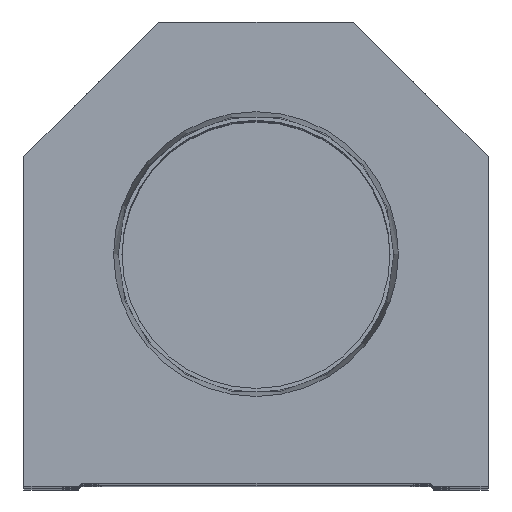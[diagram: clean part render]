
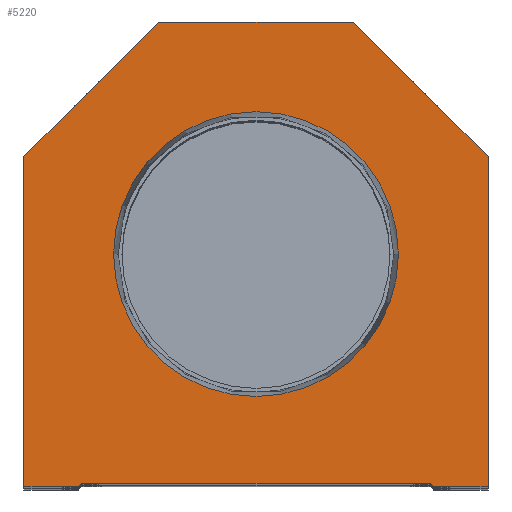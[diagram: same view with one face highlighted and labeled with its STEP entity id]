
A CAD part, top view. The second image highlights one B-rep face of the part: STEP entity #5220.
In plain terms, the highlighted planar face has unit normal (0, 0, 1).
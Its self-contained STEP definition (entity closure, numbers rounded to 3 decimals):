
#73 = VERTEX_POINT ( 'NONE', #721 ) ;
#128 = CARTESIAN_POINT ( 'NONE',  ( -38.1, 54.1, 0. ) ) ;
#228 = CARTESIAN_POINT ( 'NONE',  ( -38.1, 54.1, 0. ) ) ;
#285 = EDGE_LOOP ( 'NONE', ( #6397, #1532, #22794, #3366, #21651, #17942, #521, #16486, #10369, #4028 ) ) ;
#521 = ORIENTED_EDGE ( 'NONE', *, *, #22361, .T. ) ;
#693 = CARTESIAN_POINT ( 'NONE',  ( 38.1, 54.1, 0. ) ) ;
#721 = CARTESIAN_POINT ( 'NONE',  ( 23.374, 38.1, 0. ) ) ;
#1532 = ORIENTED_EDGE ( 'NONE', *, *, #13314, .T. ) ;
#1607 = DIRECTION ( 'NONE',  ( 1., 0., 0. ) ) ;
#2179 = EDGE_LOOP ( 'NONE', ( #26984, #6029 ) ) ;
#2628 = DIRECTION ( 'NONE',  ( -1., 0., 0. ) ) ;
#3242 = CARTESIAN_POINT ( 'NONE',  ( -29.1, 0., 0. ) ) ;
#3366 = ORIENTED_EDGE ( 'NONE', *, *, #8626, .T. ) ;
#3370 = DIRECTION ( 'NONE',  ( 1., 0., 0. ) ) ;
#3670 = VECTOR ( 'NONE', #11921, 1000. ) ;
#3711 = FACE_BOUND ( 'NONE', #2179, .T. ) ;
#3716 = CARTESIAN_POINT ( 'NONE',  ( -28.6, 0.5, 0. ) ) ;
#3792 = CARTESIAN_POINT ( 'NONE',  ( -28.6, 0.5, 0. ) ) ;
#4010 = VECTOR ( 'NONE', #22852, 1000. ) ;
#4028 = ORIENTED_EDGE ( 'NONE', *, *, #17716, .T. ) ;
#4369 = LINE ( 'NONE', #128, #21928 ) ;
#4616 = LINE ( 'NONE', #15202, #26229 ) ;
#5220 = ADVANCED_FACE ( 'NONE', ( #3711, #21496 ), #8636, .T. ) ;
#5226 = DIRECTION ( 'NONE',  ( 0.707, -0.707, 0. ) ) ;
#5844 = CARTESIAN_POINT ( 'NONE',  ( -16., 76.2, 0. ) ) ;
#6029 = ORIENTED_EDGE ( 'NONE', *, *, #9067, .F. ) ;
#6397 = ORIENTED_EDGE ( 'NONE', *, *, #9710, .T. ) ;
#6539 = VECTOR ( 'NONE', #7447, 1000. ) ;
#7189 = VERTEX_POINT ( 'NONE', #10645 ) ;
#7228 = DIRECTION ( 'NONE',  ( 0.707, 0.707, 0. ) ) ;
#7368 = LINE ( 'NONE', #20528, #20464 ) ;
#7447 = DIRECTION ( 'NONE',  ( -0.707, 0.707, 0. ) ) ;
#7744 = LINE ( 'NONE', #14283, #4010 ) ;
#8295 = CARTESIAN_POINT ( 'NONE',  ( -28.6, 0., 0. ) ) ;
#8626 = EDGE_CURVE ( 'NONE', #18883, #24762, #13717, .T. ) ;
#8636 = PLANE ( 'NONE',  #18221 ) ;
#8643 = LINE ( 'NONE', #17404, #27538 ) ;
#9032 = VERTEX_POINT ( 'NONE', #228 ) ;
#9067 = EDGE_CURVE ( 'NONE', #18696, #73, #19264, .T. ) ;
#9710 = EDGE_CURVE ( 'NONE', #7189, #19041, #25360, .T. ) ;
#9905 = VECTOR ( 'NONE', #3370, 1000. ) ;
#9908 = VERTEX_POINT ( 'NONE', #12610 ) ;
#10369 = ORIENTED_EDGE ( 'NONE', *, *, #24826, .T. ) ;
#10502 = DIRECTION ( 'NONE',  ( 0., 1., 0. ) ) ;
#10645 = CARTESIAN_POINT ( 'NONE',  ( -38.1, 0., 0. ) ) ;
#10687 = VECTOR ( 'NONE', #5226, 1000. ) ;
#10776 = DIRECTION ( 'NONE',  ( 0., 0., 1. ) ) ;
#11558 = VERTEX_POINT ( 'NONE', #3716 ) ;
#11670 = EDGE_CURVE ( 'NONE', #19135, #13259, #8643, .T. ) ;
#11921 = DIRECTION ( 'NONE',  ( 0., -1., 0. ) ) ;
#12361 = EDGE_CURVE ( 'NONE', #9908, #20924, #4616, .T. ) ;
#12610 = CARTESIAN_POINT ( 'NONE',  ( 16., 76.2, 0. ) ) ;
#13259 = VERTEX_POINT ( 'NONE', #22616 ) ;
#13314 = EDGE_CURVE ( 'NONE', #19041, #11558, #7368, .T. ) ;
#13381 = DIRECTION ( 'NONE',  ( 0., 0., 1. ) ) ;
#13717 = LINE ( 'NONE', #22297, #10687 ) ;
#13802 = DIRECTION ( 'NONE',  ( 1., 0., 0. ) ) ;
#14177 = CARTESIAN_POINT ( 'NONE',  ( -38.1, 0., 0. ) ) ;
#14283 = CARTESIAN_POINT ( 'NONE',  ( 28.6, 0., 0. ) ) ;
#14888 = EDGE_CURVE ( 'NONE', #11558, #18883, #16929, .T. ) ;
#15202 = CARTESIAN_POINT ( 'NONE',  ( 16., 76.2, 0. ) ) ;
#15366 = DIRECTION ( 'NONE',  ( 1., 0., 0. ) ) ;
#15527 = EDGE_CURVE ( 'NONE', #24762, #19135, #7744, .T. ) ;
#16486 = ORIENTED_EDGE ( 'NONE', *, *, #12361, .T. ) ;
#16929 = LINE ( 'NONE', #3792, #27124 ) ;
#17068 = CARTESIAN_POINT ( 'NONE',  ( 0., 38.1, 0. ) ) ;
#17180 = EDGE_CURVE ( 'NONE', #73, #18696, #17606, .T. ) ;
#17404 = CARTESIAN_POINT ( 'NONE',  ( 38.1, 0., 0. ) ) ;
#17606 = CIRCLE ( 'NONE', #19450, 23.374 ) ;
#17716 = EDGE_CURVE ( 'NONE', #9032, #7189, #20656, .T. ) ;
#17942 = ORIENTED_EDGE ( 'NONE', *, *, #11670, .T. ) ;
#18221 = AXIS2_PLACEMENT_3D ( 'NONE', #27854, #10776, #1607 ) ;
#18696 = VERTEX_POINT ( 'NONE', #25665 ) ;
#18774 = DIRECTION ( 'NONE',  ( 1., 0., 0. ) ) ;
#18883 = VERTEX_POINT ( 'NONE', #19641 ) ;
#19041 = VERTEX_POINT ( 'NONE', #3242 ) ;
#19135 = VERTEX_POINT ( 'NONE', #25787 ) ;
#19264 = CIRCLE ( 'NONE', #25098, 23.374 ) ;
#19335 = DIRECTION ( 'NONE',  ( 0., 0., 1. ) ) ;
#19450 = AXIS2_PLACEMENT_3D ( 'NONE', #17068, #19335, #15366 ) ;
#19634 = CARTESIAN_POINT ( 'NONE',  ( 29.1, 0., 0. ) ) ;
#19641 = CARTESIAN_POINT ( 'NONE',  ( 28.6, 0.5, 0. ) ) ;
#20464 = VECTOR ( 'NONE', #7228, 1000. ) ;
#20528 = CARTESIAN_POINT ( 'NONE',  ( -14.55, 14.55, 0. ) ) ;
#20656 = LINE ( 'NONE', #14177, #3670 ) ;
#20924 = VERTEX_POINT ( 'NONE', #5844 ) ;
#21459 = DIRECTION ( 'NONE',  ( -0.707, -0.707, 0. ) ) ;
#21496 = FACE_OUTER_BOUND ( 'NONE', #285, .T. ) ;
#21651 = ORIENTED_EDGE ( 'NONE', *, *, #15527, .T. ) ;
#21928 = VECTOR ( 'NONE', #21459, 1000. ) ;
#22297 = CARTESIAN_POINT ( 'NONE',  ( 14.55, 14.55, 0. ) ) ;
#22361 = EDGE_CURVE ( 'NONE', #13259, #9908, #24403, .T. ) ;
#22616 = CARTESIAN_POINT ( 'NONE',  ( 38.1, 54.1, 0. ) ) ;
#22794 = ORIENTED_EDGE ( 'NONE', *, *, #14888, .T. ) ;
#22852 = DIRECTION ( 'NONE',  ( 1., 0., 0. ) ) ;
#24403 = LINE ( 'NONE', #693, #6539 ) ;
#24762 = VERTEX_POINT ( 'NONE', #19634 ) ;
#24826 = EDGE_CURVE ( 'NONE', #20924, #9032, #4369, .T. ) ;
#25098 = AXIS2_PLACEMENT_3D ( 'NONE', #26343, #13381, #13802 ) ;
#25360 = LINE ( 'NONE', #8295, #9905 ) ;
#25665 = CARTESIAN_POINT ( 'NONE',  ( -23.374, 38.1, 0. ) ) ;
#25787 = CARTESIAN_POINT ( 'NONE',  ( 38.1, 0., 0. ) ) ;
#26229 = VECTOR ( 'NONE', #2628, 1000. ) ;
#26343 = CARTESIAN_POINT ( 'NONE',  ( 0., 38.1, 0. ) ) ;
#26984 = ORIENTED_EDGE ( 'NONE', *, *, #17180, .F. ) ;
#27124 = VECTOR ( 'NONE', #18774, 1000. ) ;
#27538 = VECTOR ( 'NONE', #10502, 1000. ) ;
#27854 = CARTESIAN_POINT ( 'NONE',  ( 0., 0., 0. ) ) ;
